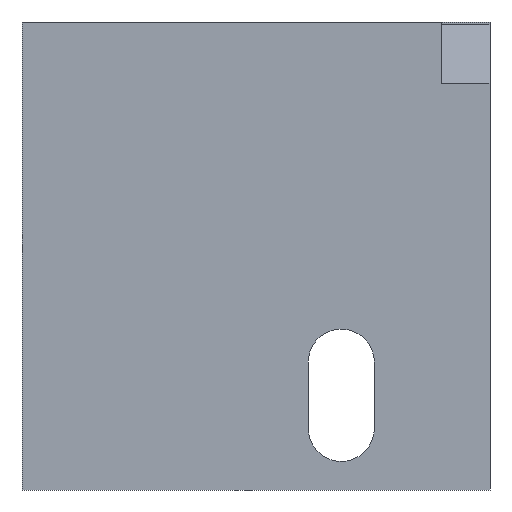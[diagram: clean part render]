
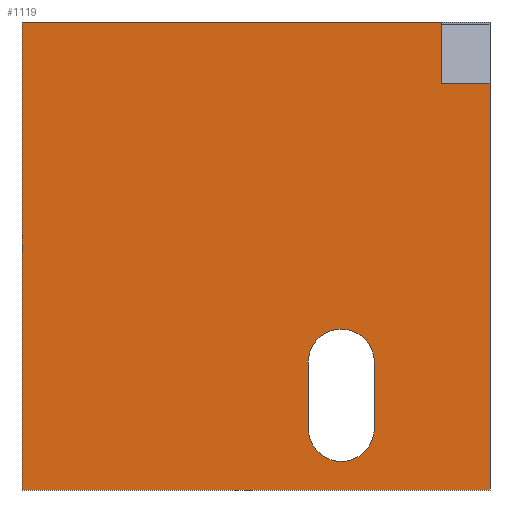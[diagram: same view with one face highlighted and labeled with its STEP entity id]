
A CAD part, front view. The second image highlights one B-rep face of the part: STEP entity #1119.
In plain terms, the highlighted planar face has unit normal (0, -1, 0).
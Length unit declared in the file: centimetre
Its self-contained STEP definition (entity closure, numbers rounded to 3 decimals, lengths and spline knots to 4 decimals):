
#11 = CARTESIAN_POINT ( 'NONE',  ( 611.5904, 0., 273.2343 ) ) ;
#12 = ORIENTED_EDGE ( 'NONE', *, *, #409, .F. ) ;
#23 = ORIENTED_EDGE ( 'NONE', *, *, #390, .T. ) ;
#64 = LINE ( 'NONE', #271, #700 ) ;
#84 = VECTOR ( 'NONE', #653, 100. ) ;
#91 = CARTESIAN_POINT ( 'NONE',  ( 752.9073, 0., 273.2343 ) ) ;
#101 = EDGE_CURVE ( 'NONE', #330, #1125, #274, .T. ) ;
#103 = VECTOR ( 'NONE', #1084, 100. ) ;
#111 = EDGE_CURVE ( 'NONE', #469, #330, #64, .T. ) ;
#135 = CARTESIAN_POINT ( 'NONE',  ( 1000., 0., 1000. ) ) ;
#137 = VERTEX_POINT ( 'NONE', #949 ) ;
#196 = FACE_BOUND ( 'NONE', #317, .T. ) ;
#203 = EDGE_CURVE ( 'NONE', #1085, #137, #818, .T. ) ;
#209 = VECTOR ( 'NONE', #1190, 100. ) ;
#245 = DIRECTION ( 'NONE',  ( 0., 0., 1. ) ) ;
#255 = ORIENTED_EDGE ( 'NONE', *, *, #203, .F. ) ;
#271 = CARTESIAN_POINT ( 'NONE',  ( 611.5904, 0., 131.752 ) ) ;
#274 = CIRCLE ( 'NONE', #597, 70.6584 ) ;
#317 = EDGE_LOOP ( 'NONE', ( #845, #540, #559, #585, #23 ) ) ;
#330 = VERTEX_POINT ( 'NONE', #11 ) ;
#345 = DIRECTION ( 'NONE',  ( 0., 0., 1. ) ) ;
#365 = ORIENTED_EDGE ( 'NONE', *, *, #1164, .T. ) ;
#390 = EDGE_CURVE ( 'NONE', #1125, #734, #1135, .T. ) ;
#397 = CARTESIAN_POINT ( 'NONE',  ( 0., 0., 1000. ) ) ;
#409 = EDGE_CURVE ( 'NONE', #137, #1233, #731, .T. ) ;
#428 = CARTESIAN_POINT ( 'NONE',  ( 682.2488, 0., 131.752 ) ) ;
#435 = CARTESIAN_POINT ( 'NONE',  ( 611.5904, 0., 131.752 ) ) ;
#457 = VERTEX_POINT ( 'NONE', #1254 ) ;
#464 = VECTOR ( 'NONE', #861, 100. ) ;
#469 = VERTEX_POINT ( 'NONE', #435 ) ;
#482 = LINE ( 'NONE', #889, #209 ) ;
#500 = CARTESIAN_POINT ( 'NONE',  ( 896.1631, 0., 868.7844 ) ) ;
#517 = DIRECTION ( 'NONE',  ( 1., 0., 0. ) ) ;
#540 = ORIENTED_EDGE ( 'NONE', *, *, #876, .T. ) ;
#557 = CARTESIAN_POINT ( 'NONE',  ( 1000., 0., 0. ) ) ;
#559 = ORIENTED_EDGE ( 'NONE', *, *, #111, .T. ) ;
#561 = CARTESIAN_POINT ( 'NONE',  ( 0., 0., 0. ) ) ;
#570 = VECTOR ( 'NONE', #1204, 100. ) ;
#580 = DIRECTION ( 'NONE',  ( 0., 0., 1. ) ) ;
#582 = CARTESIAN_POINT ( 'NONE',  ( 1000., 0., 868.7844 ) ) ;
#585 = ORIENTED_EDGE ( 'NONE', *, *, #101, .T. ) ;
#589 = FACE_OUTER_BOUND ( 'NONE', #745, .T. ) ;
#597 = AXIS2_PLACEMENT_3D ( 'NONE', #752, #644, #1172 ) ;
#600 = LINE ( 'NONE', #1182, #570 ) ;
#618 = EDGE_CURVE ( 'NONE', #734, #457, #482, .T. ) ;
#626 = DIRECTION ( 'NONE',  ( 0., 0., -1. ) ) ;
#633 = LINE ( 'NONE', #135, #1242 ) ;
#644 = DIRECTION ( 'NONE',  ( 0., 1., 0. ) ) ;
#649 = CIRCLE ( 'NONE', #954, 70.6584 ) ;
#653 = DIRECTION ( 'NONE',  ( 1., 0., 0. ) ) ;
#680 = VERTEX_POINT ( 'NONE', #1002 ) ;
#700 = VECTOR ( 'NONE', #245, 100. ) ;
#709 = VERTEX_POINT ( 'NONE', #582 ) ;
#731 = LINE ( 'NONE', #855, #464 ) ;
#733 = DIRECTION ( 'NONE',  ( 0., 0., 1. ) ) ;
#734 = VERTEX_POINT ( 'NONE', #91 ) ;
#745 = EDGE_LOOP ( 'NONE', ( #813, #854, #12, #255, #365, #1192 ) ) ;
#752 = CARTESIAN_POINT ( 'NONE',  ( 682.2488, 0., 273.2343 ) ) ;
#782 = VECTOR ( 'NONE', #517, 100. ) ;
#793 = EDGE_CURVE ( 'NONE', #709, #1016, #633, .T. ) ;
#796 = DIRECTION ( 'NONE',  ( 0., 1., 0. ) ) ;
#813 = ORIENTED_EDGE ( 'NONE', *, *, #793, .F. ) ;
#818 = LINE ( 'NONE', #1055, #84 ) ;
#836 = DIRECTION ( 'NONE',  ( 0., 1., 0. ) ) ;
#837 = EDGE_CURVE ( 'NONE', #1233, #709, #848, .T. ) ;
#845 = ORIENTED_EDGE ( 'NONE', *, *, #618, .T. ) ;
#848 = LINE ( 'NONE', #1053, #782 ) ;
#854 = ORIENTED_EDGE ( 'NONE', *, *, #837, .F. ) ;
#855 = CARTESIAN_POINT ( 'NONE',  ( 896.1631, 0., 868.7844 ) ) ;
#861 = DIRECTION ( 'NONE',  ( 0., 0., -1. ) ) ;
#876 = EDGE_CURVE ( 'NONE', #457, #469, #649, .T. ) ;
#889 = CARTESIAN_POINT ( 'NONE',  ( 752.9073, 0., 273.2343 ) ) ;
#890 = CARTESIAN_POINT ( 'NONE',  ( 0., 0., 1000. ) ) ;
#891 = AXIS2_PLACEMENT_3D ( 'NONE', #397, #796, #580 ) ;
#936 = CARTESIAN_POINT ( 'NONE',  ( 682.2488, 0., 273.2343 ) ) ;
#949 = CARTESIAN_POINT ( 'NONE',  ( 896.1631, 0., 1000. ) ) ;
#954 = AXIS2_PLACEMENT_3D ( 'NONE', #428, #1232, #733 ) ;
#1002 = CARTESIAN_POINT ( 'NONE',  ( 0., 0., 0. ) ) ;
#1005 = EDGE_CURVE ( 'NONE', #680, #1016, #1069, .T. ) ;
#1016 = VERTEX_POINT ( 'NONE', #557 ) ;
#1053 = CARTESIAN_POINT ( 'NONE',  ( 896.1631, 0., 868.7844 ) ) ;
#1055 = CARTESIAN_POINT ( 'NONE',  ( 0., 0., 1000. ) ) ;
#1069 = LINE ( 'NONE', #561, #103 ) ;
#1081 = AXIS2_PLACEMENT_3D ( 'NONE', #936, #836, #345 ) ;
#1084 = DIRECTION ( 'NONE',  ( 1., 0., 0. ) ) ;
#1085 = VERTEX_POINT ( 'NONE', #890 ) ;
#1109 = CARTESIAN_POINT ( 'NONE',  ( 682.2488, 0., 343.8927 ) ) ;
#1119 = ADVANCED_FACE ( 'NONE', ( #196, #589 ), #1295, .F. ) ;
#1125 = VERTEX_POINT ( 'NONE', #1109 ) ;
#1135 = CIRCLE ( 'NONE', #1081, 70.6584 ) ;
#1164 = EDGE_CURVE ( 'NONE', #1085, #680, #600, .T. ) ;
#1172 = DIRECTION ( 'NONE',  ( 0., 0., 1. ) ) ;
#1182 = CARTESIAN_POINT ( 'NONE',  ( 0., 0., 1000. ) ) ;
#1190 = DIRECTION ( 'NONE',  ( 0., 0., -1. ) ) ;
#1192 = ORIENTED_EDGE ( 'NONE', *, *, #1005, .T. ) ;
#1204 = DIRECTION ( 'NONE',  ( 0., 0., -1. ) ) ;
#1232 = DIRECTION ( 'NONE',  ( 0., 1., 0. ) ) ;
#1233 = VERTEX_POINT ( 'NONE', #500 ) ;
#1242 = VECTOR ( 'NONE', #626, 100. ) ;
#1254 = CARTESIAN_POINT ( 'NONE',  ( 752.9073, 0., 131.752 ) ) ;
#1295 = PLANE ( 'NONE',  #891 ) ;
